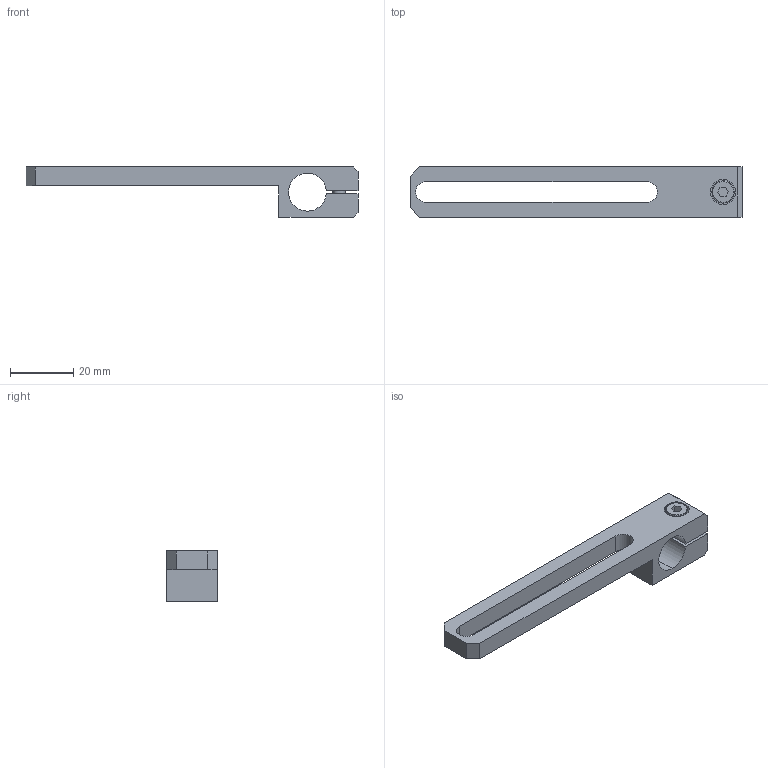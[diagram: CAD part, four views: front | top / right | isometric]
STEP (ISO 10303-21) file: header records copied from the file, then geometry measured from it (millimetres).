
FILE_DESCRIPTION (( 'STEP AP214' ), '1' );
FILE_NAME ('SCF5-1270W16.STEP', '2019-11-11T02:05:56', ( '微软用户' ), ( '微软中国' ), 'SwSTEP 2.0', 'SolidWorks 2016', '' );
FILE_SCHEMA (( 'AUTOMOTIVE_DESIGN' ));
Length unit declared in the file: millimetre
Products named in the file (1): SCF5-1270W16
Bounding box: 105 x 16 x 16.1 mm (x, y, z)
Volume: 9021.6 mm3; surface area: 6764 mm2
Topology: 3 solids, 3 shells, 243 faces, 698 edges, 462 vertices
Faces by surface type: plane 220, cylinder 19, cone 2, bspline 2
Entity records: 10844 total; most frequent: CARTESIAN_POINT 1528, DIRECTION 1404, ORIENTED_EDGE 1396, EDGE_CURVE 698, LINE 468, VECTOR 468, AXIS2_PLACEMENT_3D 468, VERTEX_POINT 462
